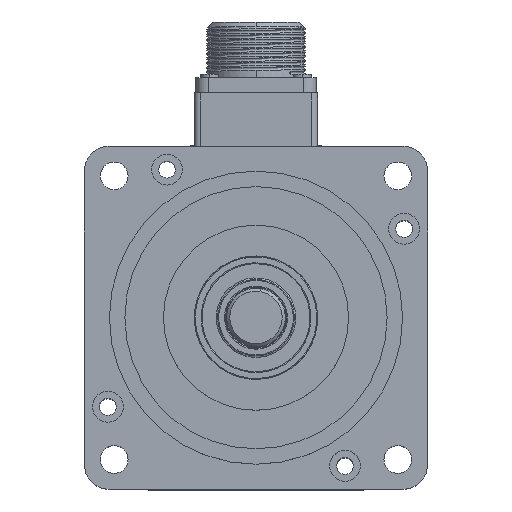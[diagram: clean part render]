
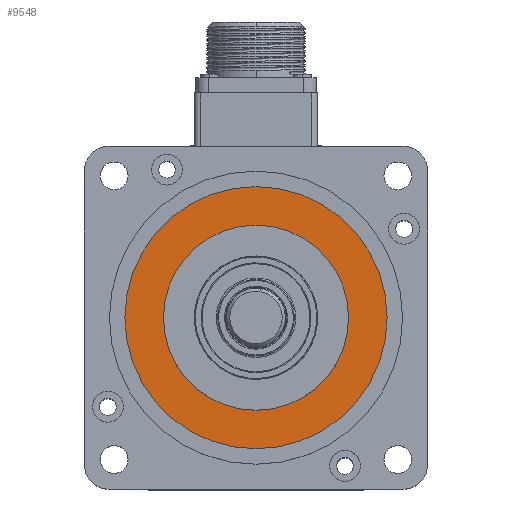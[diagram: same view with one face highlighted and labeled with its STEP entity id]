
A CAD part, top view. The second image highlights one B-rep face of the part: STEP entity #9548.
In plain terms, the highlighted planar face has unit normal (0, 0, 1).
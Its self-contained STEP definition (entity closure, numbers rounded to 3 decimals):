
#174 = AXIS2_PLACEMENT_3D ( 'NONE', #23015, #1802, #15343 ) ;
#216 = ORIENTED_EDGE ( 'NONE', *, *, #8369, .F. ) ;
#331 = DIRECTION ( 'NONE',  ( -1., 0., 0. ) ) ;
#587 = CARTESIAN_POINT ( 'NONE',  ( -42.5, 0., 69.5 ) ) ;
#1294 = AXIS2_PLACEMENT_3D ( 'NONE', #22127, #10587, #24081 ) ;
#1802 = DIRECTION ( 'NONE',  ( 0., 0., -1. ) ) ;
#2401 = ORIENTED_EDGE ( 'NONE', *, *, #4296, .T. ) ;
#3703 = DIRECTION ( 'NONE',  ( 0., 0., -1. ) ) ;
#4296 = EDGE_CURVE ( 'NONE', #15292, #24851, #23008, .T. ) ;
#5387 = AXIS2_PLACEMENT_3D ( 'NONE', #23503, #11947, #331 ) ;
#6462 = CARTESIAN_POINT ( 'NONE',  ( -30., 0., 69.5 ) ) ;
#7061 = FACE_BOUND ( 'NONE', #8237, .T. ) ;
#7548 = PLANE ( 'NONE',  #174 ) ;
#7658 = ORIENTED_EDGE ( 'NONE', *, *, #22768, .F. ) ;
#7761 = ORIENTED_EDGE ( 'NONE', *, *, #13531, .T. ) ;
#8237 = EDGE_LOOP ( 'NONE', ( #2401, #7761 ) ) ;
#8369 = EDGE_CURVE ( 'NONE', #21149, #21114, #10779, .T. ) ;
#8950 = AXIS2_PLACEMENT_3D ( 'NONE', #15320, #3703, #17255 ) ;
#9101 = CARTESIAN_POINT ( 'NONE',  ( 0., 0., 69.5 ) ) ;
#9548 = ADVANCED_FACE ( 'NONE', ( #23083, #7061 ), #7548, .F. ) ;
#10587 = DIRECTION ( 'NONE',  ( 0., 0., -1. ) ) ;
#10779 = CIRCLE ( 'NONE', #1294, 42.5 ) ;
#11061 = DIRECTION ( 'NONE',  ( -1., 0., 0. ) ) ;
#11947 = DIRECTION ( 'NONE',  ( 0., 0., -1. ) ) ;
#13531 = EDGE_CURVE ( 'NONE', #24851, #15292, #16718, .T. ) ;
#13808 = AXIS2_PLACEMENT_3D ( 'NONE', #9101, #22621, #11061 ) ;
#14717 = CARTESIAN_POINT ( 'NONE',  ( 30., 0., 69.5 ) ) ;
#14965 = CIRCLE ( 'NONE', #5387, 42.5 ) ;
#15292 = VERTEX_POINT ( 'NONE', #6462 ) ;
#15320 = CARTESIAN_POINT ( 'NONE',  ( 0., 0., 69.5 ) ) ;
#15343 = DIRECTION ( 'NONE',  ( -1., 0., 0. ) ) ;
#16718 = CIRCLE ( 'NONE', #13808, 30. ) ;
#17255 = DIRECTION ( 'NONE',  ( -1., 0., 0. ) ) ;
#18086 = CARTESIAN_POINT ( 'NONE',  ( 42.5, 0., 69.5 ) ) ;
#19108 = EDGE_LOOP ( 'NONE', ( #7658, #216 ) ) ;
#21114 = VERTEX_POINT ( 'NONE', #587 ) ;
#21149 = VERTEX_POINT ( 'NONE', #18086 ) ;
#22127 = CARTESIAN_POINT ( 'NONE',  ( 0., 0., 69.5 ) ) ;
#22621 = DIRECTION ( 'NONE',  ( 0., 0., -1. ) ) ;
#22768 = EDGE_CURVE ( 'NONE', #21114, #21149, #14965, .T. ) ;
#23008 = CIRCLE ( 'NONE', #8950, 30. ) ;
#23015 = CARTESIAN_POINT ( 'NONE',  ( 0., 30., 69.5 ) ) ;
#23083 = FACE_OUTER_BOUND ( 'NONE', #19108, .T. ) ;
#23503 = CARTESIAN_POINT ( 'NONE',  ( 0., 0., 69.5 ) ) ;
#24081 = DIRECTION ( 'NONE',  ( -1., 0., 0. ) ) ;
#24851 = VERTEX_POINT ( 'NONE', #14717 ) ;
